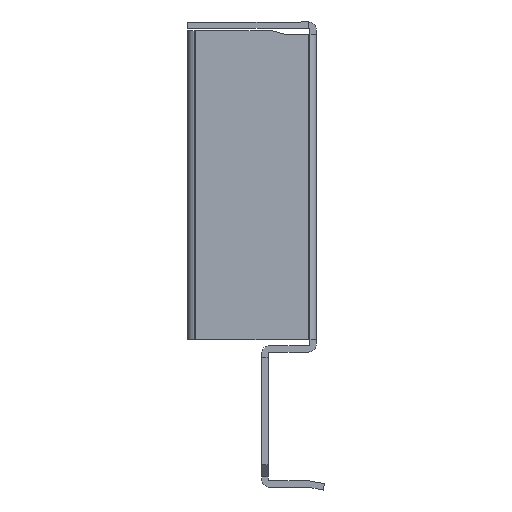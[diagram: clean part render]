
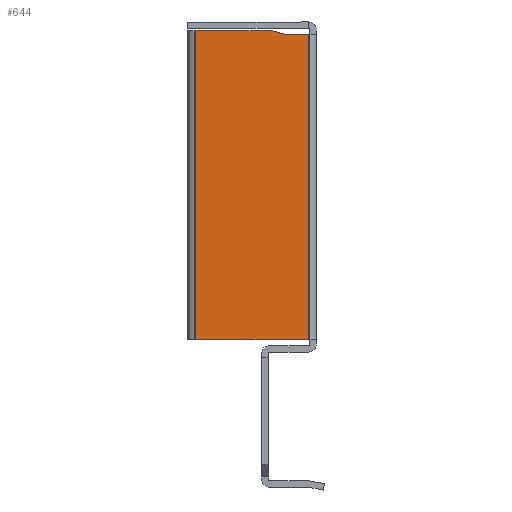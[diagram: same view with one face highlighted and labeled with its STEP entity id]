
A CAD part, left-side view. The second image highlights one B-rep face of the part: STEP entity #644.
In plain terms, the highlighted planar face has unit normal (-1, 0, 0).
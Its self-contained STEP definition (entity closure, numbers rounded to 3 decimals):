
#139 = VERTEX_POINT ( 'NONE', #409 ) ;
#145 = VERTEX_POINT ( 'NONE', #407 ) ;
#223 = VERTEX_POINT ( 'NONE', #391 ) ;
#240 = VERTEX_POINT ( 'NONE', #388 ) ;
#258 = DIRECTION ( 'NONE',  ( 0., -1., 0. ) ) ;
#259 = DIRECTION ( 'NONE',  ( -1., 0., 0. ) ) ;
#260 = CARTESIAN_POINT ( 'NONE',  ( -255., -5., 74.385 ) ) ;
#269 = PLANE ( 'NONE',  #1293 ) ;
#291 = CARTESIAN_POINT ( 'NONE',  ( -255., -2., 55.5 ) ) ;
#294 = CARTESIAN_POINT ( 'NONE',  ( -255., -5., 17.5 ) ) ;
#388 = CARTESIAN_POINT ( 'NONE',  ( -255., 9., 17.5 ) ) ;
#391 = CARTESIAN_POINT ( 'NONE',  ( -255., 9., 55.9 ) ) ;
#407 = CARTESIAN_POINT ( 'NONE',  ( -255., -5., 55.5 ) ) ;
#409 = CARTESIAN_POINT ( 'NONE',  ( -255., -0.507, 55.9 ) ) ;
#527 = VERTEX_POINT ( 'NONE', #294 ) ;
#529 = VERTEX_POINT ( 'NONE', #291 ) ;
#644 = ADVANCED_FACE ( 'NONE', ( #1712 ), #269, .T. ) ;
#877 = EDGE_LOOP ( 'NONE', ( #1607, #1608, #1609, #1610, #1611, #1612 ) ) ;
#1098 = EDGE_CURVE ( 'NONE', #527, #240, #1855, .T. ) ;
#1106 = EDGE_CURVE ( 'NONE', #139, #223, #1868, .T. ) ;
#1114 = EDGE_CURVE ( 'NONE', #223, #240, #1883, .T. ) ;
#1115 = EDGE_CURVE ( 'NONE', #529, #145, #1885, .T. ) ;
#1116 = EDGE_CURVE ( 'NONE', #139, #529, #1887, .T. ) ;
#1117 = EDGE_CURVE ( 'NONE', #145, #527, #1889, .T. ) ;
#1293 = AXIS2_PLACEMENT_3D ( 'NONE', #260, #259, #258 ) ;
#1607 = ORIENTED_EDGE ( 'NONE', *, *, #1115, .F. ) ;
#1608 = ORIENTED_EDGE ( 'NONE', *, *, #1116, .F. ) ;
#1609 = ORIENTED_EDGE ( 'NONE', *, *, #1106, .T. ) ;
#1610 = ORIENTED_EDGE ( 'NONE', *, *, #1114, .T. ) ;
#1611 = ORIENTED_EDGE ( 'NONE', *, *, #1098, .F. ) ;
#1612 = ORIENTED_EDGE ( 'NONE', *, *, #1117, .F. ) ;
#1712 = FACE_OUTER_BOUND ( 'NONE', #877, .T. ) ;
#1855 = LINE ( 'NONE', #2495, #1857 ) ;
#1857 = VECTOR ( 'NONE', #2494, 1000. ) ;
#1868 = LINE ( 'NONE', #2473, #1870 ) ;
#1870 = VECTOR ( 'NONE', #2470, 1000. ) ;
#1883 = LINE ( 'NONE', #2448, #1884 ) ;
#1884 = VECTOR ( 'NONE', #2447, 1000. ) ;
#1885 = LINE ( 'NONE', #2445, #1886 ) ;
#1886 = VECTOR ( 'NONE', #2444, 1000. ) ;
#1887 = LINE ( 'NONE', #2443, #1888 ) ;
#1888 = VECTOR ( 'NONE', #2441, 1000. ) ;
#1889 = LINE ( 'NONE', #2439, #1890 ) ;
#1890 = VECTOR ( 'NONE', #2438, 1000. ) ;
#2438 = DIRECTION ( 'NONE',  ( 0., 0., -1. ) ) ;
#2439 = CARTESIAN_POINT ( 'NONE',  ( -255., -5., 74.385 ) ) ;
#2441 = DIRECTION ( 'NONE',  ( 0., -0.966, -0.259 ) ) ;
#2443 = CARTESIAN_POINT ( 'NONE',  ( -255., 0.612, 56.2 ) ) ;
#2444 = DIRECTION ( 'NONE',  ( 0., -1., 0. ) ) ;
#2445 = CARTESIAN_POINT ( 'NONE',  ( -255., -2., 55.5 ) ) ;
#2447 = DIRECTION ( 'NONE',  ( 0., 0., -1. ) ) ;
#2448 = CARTESIAN_POINT ( 'NONE',  ( -255., 9., 74.385 ) ) ;
#2470 = DIRECTION ( 'NONE',  ( 0., 1., 0. ) ) ;
#2473 = CARTESIAN_POINT ( 'NONE',  ( -255., -5., 55.9 ) ) ;
#2494 = DIRECTION ( 'NONE',  ( 0., 1., 0. ) ) ;
#2495 = CARTESIAN_POINT ( 'NONE',  ( -255., -5., 17.5 ) ) ;
